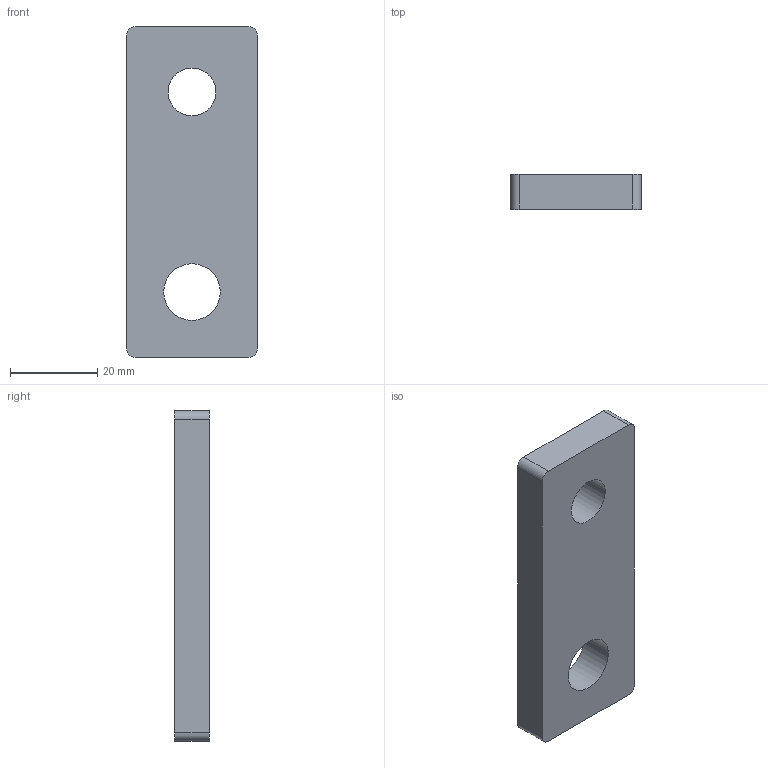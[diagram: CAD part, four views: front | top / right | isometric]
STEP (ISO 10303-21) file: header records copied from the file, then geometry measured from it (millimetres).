
FILE_DESCRIPTION((''),'2;1');
FILE_NAME('U6_C_600A_BUSBAR','2018-06-04T',('HHI'),(''),'PRO/ENGINEER BY PARAMETRIC TECHNOLOGY CORPORATION, 2012453','PRO/ENGINEER BY PARAMETRIC TECHNOLOGY CORPORATION, 2012453','');
FILE_SCHEMA(('CONFIG_CONTROL_DESIGN'));
Length unit declared in the file: millimetre
Products named in the file (1): U6_C_600A_BUSBAR
Bounding box: 30 x 8 x 76 mm (x, y, z)
Volume: 16390.4 mm3; surface area: 6369.3 mm2
Topology: 1 solids, 1 shells, 14 faces, 36 edges, 24 vertices
Faces by surface type: cylinder 8, plane 6
Entity records: 482 total; most frequent: DIRECTION 80, CARTESIAN_POINT 74, ORIENTED_EDGE 72, EDGE_CURVE 36, AXIS2_PLACEMENT_3D 30, VERTEX_POINT 24, VECTOR 20, LINE 20
